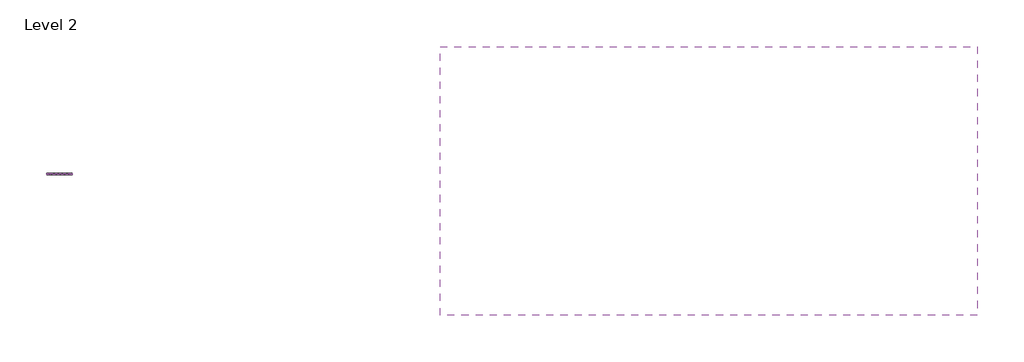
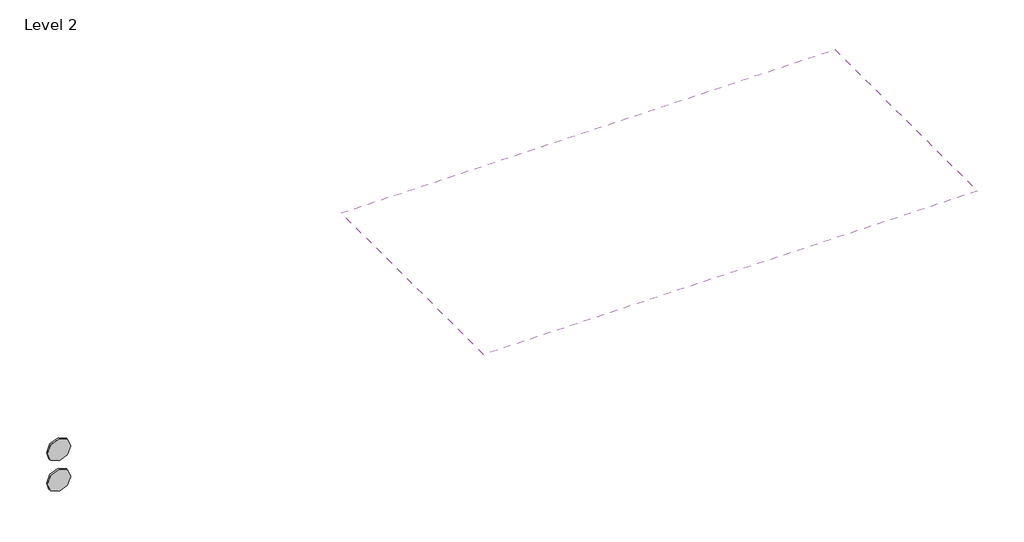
# One storey: 2 proxies, 1 covering.
"""IFC4 building model written with IfcOpenShell, lengths in millimetres."""

from ifc_helpers import new_model, si_unit, frame, origin, place, context, project, spatial, polyline, outline, extrude, transform, mapped, element, save
from components import materialmodel_materialmodel_8d9c29e1

model = new_model("IFC4")

# Units and contexts
model_context = context("Model", 3, world=origin())
ifc_project = project(units=[si_unit("LENGTHUNIT", "METRE", prefix="MILLI")], contexts=[model_context])

# Site, building, storey
site = spatial("IfcSite", under=ifc_project)
building = spatial("IfcBuilding", under=site)
storey = spatial("IfcBuildingStorey", under=building, Name="Level 2", Elevation=4000.0)

# Proxies
placement = place(None, origin())
materialmodel_materialmodel_shape = materialmodel_materialmodel_8d9c29e1(model_context)
element("IfcBuildingElementProxy", 1, Name="MaterialModel : MaterialModel", ObjectType="MaterialModel : MaterialModel", at=placement, inside=storey, context=model_context, shape_type="MappedRepresentation", body=[
    mapped(materialmodel_materialmodel_shape, transform((-9459.2715742, 621.415272, 5617.5808939), x_axis=(1.0, 0.0, 0.0), y_axis=(0.0, 1.0, 0.0), z_axis=(0.0, 0.0, 1.0))),
])
element("IfcBuildingElementProxy", 2, Name="MaterialModel : MaterialModel", ObjectType="MaterialModel : MaterialModel", at=placement, inside=storey, context=model_context, shape_type="MappedRepresentation", body=[
    mapped(materialmodel_materialmodel_shape, transform((-9459.2715742, 621.415272, 5072.4315336), x_axis=(1.0, 0.0, 0.0), y_axis=(0.0, 1.0, 0.0), z_axis=(0.0, 0.0, 1.0))),
])

# Covering
element("IfcCovering", 3, ObjectType="Preview Wall", at=placement, inside=storey, context=model_context, shape_type="SweptSolid", body=[
    extrude(outline(polyline([(4897.5689329, 2631.0675754), (4897.5689329, -1568.9324246), (-3502.4310671, -1568.9324246), (-3502.4310671, 2631.0675754), (4897.5689329, 2631.0675754)])), frame((0.0, 0.0, 6600.0), z_axis=(0.0, 0.0, 1.0), x_axis=(1.0, 0.0, 0.0)), (0.0, 0.0, 1.0), 52.0),
])

save(model, "model.ifc")
